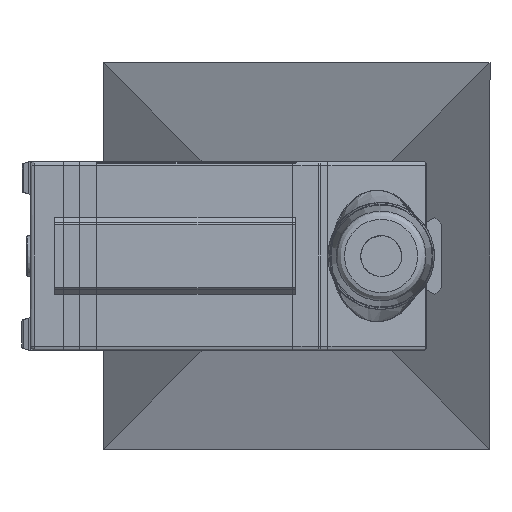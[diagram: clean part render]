
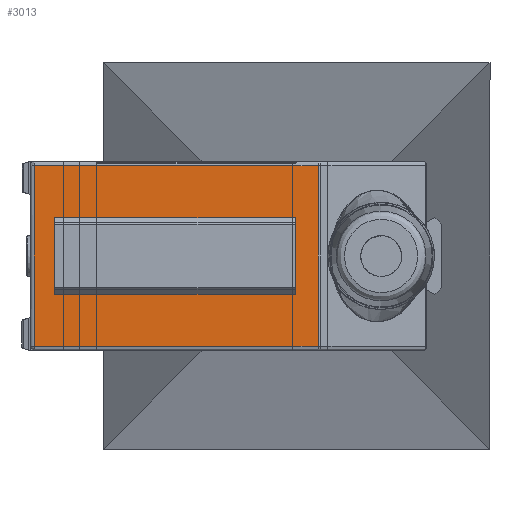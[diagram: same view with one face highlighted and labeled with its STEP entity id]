
A CAD part, left-side view. The second image highlights one B-rep face of the part: STEP entity #3013.
In plain terms, the highlighted planar face has unit normal (-1, 0, 0).
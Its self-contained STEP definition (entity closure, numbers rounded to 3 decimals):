
#59=FACE_BOUND('',#541,.T.);
#196=PLANE('',#3321);
#350=FACE_OUTER_BOUND('',#540,.T.);
#540=EDGE_LOOP('',(#2403,#2404,#2405,#2406));
#541=EDGE_LOOP('',(#2407,#2408,#2409,#2410));
#763=LINE('',#5203,#998);
#764=LINE('',#5205,#999);
#765=LINE('',#5207,#1000);
#766=LINE('',#5209,#1001);
#767=LINE('',#5220,#1002);
#768=LINE('',#5222,#1003);
#769=LINE('',#5224,#1004);
#770=LINE('',#5225,#1005);
#998=VECTOR('',#3977,22.);
#999=VECTOR('',#3980,34.493);
#1000=VECTOR('',#3983,34.493);
#1001=VECTOR('',#3986,22.);
#1002=VECTOR('',#4003,29.2);
#1003=VECTOR('',#4004,8.2);
#1004=VECTOR('',#4005,29.2);
#1005=VECTOR('',#4006,8.2);
#1364=VERTEX_POINT('',#5182);
#1365=VERTEX_POINT('',#5186);
#1366=VERTEX_POINT('',#5191);
#1367=VERTEX_POINT('',#5195);
#1370=VERTEX_POINT('',#5218);
#1371=VERTEX_POINT('',#5219);
#1372=VERTEX_POINT('',#5221);
#1373=VERTEX_POINT('',#5223);
#1727=EDGE_CURVE('',#1367,#1366,#763,.T.);
#1728=EDGE_CURVE('',#1365,#1367,#764,.T.);
#1729=EDGE_CURVE('',#1366,#1364,#765,.T.);
#1730=EDGE_CURVE('',#1364,#1365,#766,.T.);
#1733=EDGE_CURVE('',#1370,#1371,#767,.T.);
#1734=EDGE_CURVE('',#1371,#1372,#768,.T.);
#1735=EDGE_CURVE('',#1372,#1373,#769,.T.);
#1736=EDGE_CURVE('',#1370,#1373,#770,.T.);
#2403=ORIENTED_EDGE('',*,*,#1727,.F.);
#2404=ORIENTED_EDGE('',*,*,#1728,.F.);
#2405=ORIENTED_EDGE('',*,*,#1730,.F.);
#2406=ORIENTED_EDGE('',*,*,#1729,.F.);
#2407=ORIENTED_EDGE('',*,*,#1733,.T.);
#2408=ORIENTED_EDGE('',*,*,#1734,.T.);
#2409=ORIENTED_EDGE('',*,*,#1735,.T.);
#2410=ORIENTED_EDGE('',*,*,#1736,.F.);
#3013=ADVANCED_FACE('',(#350,#59),#196,.T.);
#3321=AXIS2_PLACEMENT_3D('',#5217,#4001,#4002);
#3977=DIRECTION('',(0.,0.,1.));
#3980=DIRECTION('',(0.,1.,0.));
#3983=DIRECTION('',(0.,-1.,0.));
#3986=DIRECTION('',(0.,0.,-1.));
#4001=DIRECTION('center_axis',(-1.,0.,0.));
#4002=DIRECTION('ref_axis',(0.,0.,
1.));
#4003=DIRECTION('',(0.,-1.,0.));
#4004=DIRECTION('',(0.,0.,-1.));
#4005=DIRECTION('',(0.,1.,0.));
#4006=DIRECTION('',(0.,0.,-1.));
#5182=CARTESIAN_POINT('',(-42.3,13.207,11.));
#5186=CARTESIAN_POINT('',(-42.3,13.207,-11.));
#5191=CARTESIAN_POINT('',(-42.3,47.7,11.));
#5195=CARTESIAN_POINT('',(-42.3,47.7,-11.));
#5203=CARTESIAN_POINT('',(-42.3,47.7,-11.));
#5205=CARTESIAN_POINT('',(-42.3,13.207,-11.));
#5207=CARTESIAN_POINT('',(-42.3,47.7,11.));
#5209=CARTESIAN_POINT('',(-42.3,13.207,11.));
#5217=CARTESIAN_POINT('Origin',(-42.3,48.2,11.5));
#5218=CARTESIAN_POINT('',(-42.3,45.2,4.1));
#5219=CARTESIAN_POINT('',(-42.3,16.,4.1));
#5220=CARTESIAN_POINT('',(-42.3,45.2,4.1));
#5221=CARTESIAN_POINT('',(-42.3,16.,-4.1));
#5222=CARTESIAN_POINT('',(-42.3,16.,4.1));
#5223=CARTESIAN_POINT('',(-42.3,45.2,-4.1));
#5224=CARTESIAN_POINT('',(-42.3,16.,-4.1));
#5225=CARTESIAN_POINT('',(-42.3,45.2,4.1));
